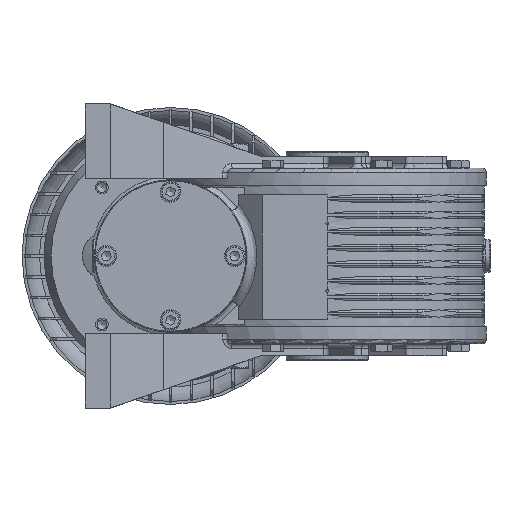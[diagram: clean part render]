
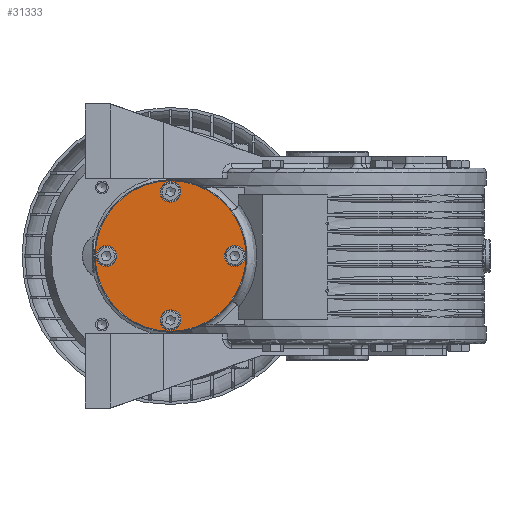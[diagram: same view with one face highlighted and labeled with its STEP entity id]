
A CAD part, left-side view. The second image highlights one B-rep face of the part: STEP entity #31333.
In plain terms, the highlighted planar face has unit normal (-1, 0, 0).
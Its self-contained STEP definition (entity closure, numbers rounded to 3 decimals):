
#31221=CARTESIAN_POINT('',(0.0,4.25,-43.0));
#31222=VERTEX_POINT('',#31221);
#31223=CARTESIAN_POINT('',(0.0,0.,-43.0));
#31224=DIRECTION('',(1.0,0.0,0.0));
#31225=DIRECTION('',(0.0,-1.0,0.0));
#31226=AXIS2_PLACEMENT_3D('',#31223,#31224,#31225);
#31227=CIRCLE('',#31226,4.25);
#31228=EDGE_CURVE('',#31222,#31222,#31227,.T.);
#31241=CARTESIAN_POINT('',(0.0,-43.0,-4.25));
#31242=VERTEX_POINT('',#31241);
#31243=CARTESIAN_POINT('',(0.0,-43.0,0.));
#31244=DIRECTION('',(1.0,0.0,0.0));
#31245=DIRECTION('',(0.0,0.0,1.0));
#31246=AXIS2_PLACEMENT_3D('',#31243,#31244,#31245);
#31247=CIRCLE('',#31246,4.25);
#31248=EDGE_CURVE('',#31242,#31242,#31247,.T.);
#31261=CARTESIAN_POINT('',(0.0,-4.25,43.0));
#31262=VERTEX_POINT('',#31261);
#31263=CARTESIAN_POINT('',(0.0,0.,43.0));
#31264=DIRECTION('',(1.0,0.0,0.0));
#31265=DIRECTION('',(0.0,1.0,0.0));
#31266=AXIS2_PLACEMENT_3D('',#31263,#31264,#31265);
#31267=CIRCLE('',#31266,4.25);
#31268=EDGE_CURVE('',#31262,#31262,#31267,.T.);
#31281=CARTESIAN_POINT('',(0.0,43.0,4.25));
#31282=VERTEX_POINT('',#31281);
#31283=CARTESIAN_POINT('',(0.0,43.0,0.0));
#31284=DIRECTION('',(1.0,0.0,0.0));
#31285=DIRECTION('',(0.0,0.0,-1.0));
#31286=AXIS2_PLACEMENT_3D('',#31283,#31284,#31285);
#31287=CIRCLE('',#31286,4.25);
#31288=EDGE_CURVE('',#31282,#31282,#31287,.T.);
#31301=CARTESIAN_POINT('',(0.0,50.5,0.0));
#31302=VERTEX_POINT('',#31301);
#31303=CARTESIAN_POINT('',(0.0,0.0,0.0));
#31304=DIRECTION('',(1.0,0.0,0.0));
#31305=DIRECTION('',(0.0,1.0,0.0));
#31306=AXIS2_PLACEMENT_3D('',#31303,#31304,#31305);
#31307=CIRCLE('',#31306,50.5);
#31308=EDGE_CURVE('',#31302,#31302,#31307,.T.);
#31313=CARTESIAN_POINT('',(0.0,25.25,0.0));
#31314=DIRECTION('',(-1.0,0.0,0.0));
#31315=DIRECTION('',(0.0,0.0,1.0));
#31316=AXIS2_PLACEMENT_3D('',#31313,#31314,#31315);
#31317=PLANE('',#31316);
#31318=ORIENTED_EDGE('',*,*,#31308,.F.);
#31319=EDGE_LOOP('',(#31318));
#31320=FACE_OUTER_BOUND('',#31319,.T.);
#31321=ORIENTED_EDGE('',*,*,#31228,.T.);
#31322=EDGE_LOOP('',(#31321));
#31323=FACE_BOUND('',#31322,.T.);
#31324=ORIENTED_EDGE('',*,*,#31248,.T.);
#31325=EDGE_LOOP('',(#31324));
#31326=FACE_BOUND('',#31325,.T.);
#31327=ORIENTED_EDGE('',*,*,#31268,.T.);
#31328=EDGE_LOOP('',(#31327));
#31329=FACE_BOUND('',#31328,.T.);
#31330=ORIENTED_EDGE('',*,*,#31288,.T.);
#31331=EDGE_LOOP('',(#31330));
#31332=FACE_BOUND('',#31331,.T.);
#31333=ADVANCED_FACE('',(#31320,#31323,#31326,#31329,#31332),#31317,.T.);
